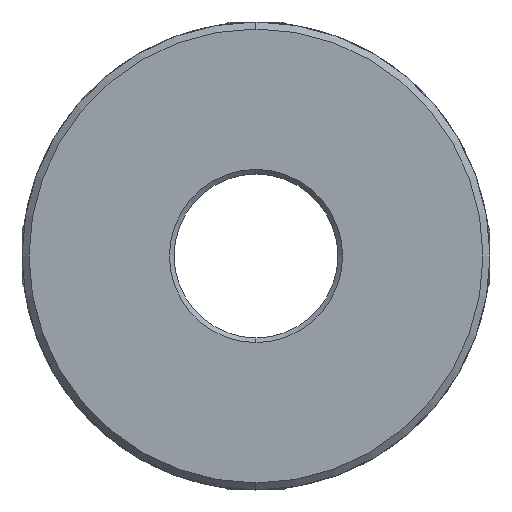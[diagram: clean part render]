
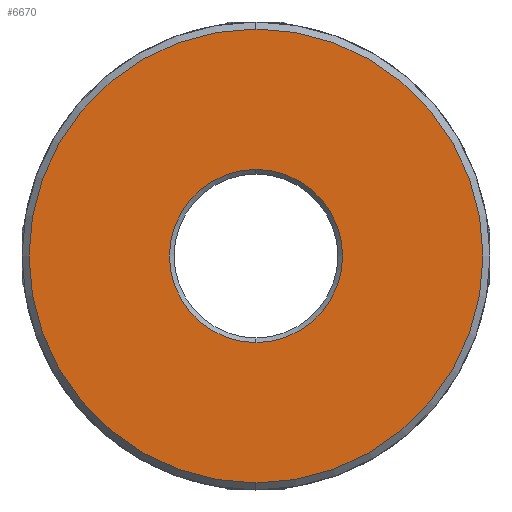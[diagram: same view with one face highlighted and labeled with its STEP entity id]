
A CAD part, front view. The second image highlights one B-rep face of the part: STEP entity #6670.
In plain terms, the highlighted planar face has unit normal (0, -1, 0).
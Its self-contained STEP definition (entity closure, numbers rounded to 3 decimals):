
#215 = DIRECTION ( 'NONE',  ( 0., 1., 0. ) ) ;
#544 = VERTEX_POINT ( 'NONE', #4293 ) ;
#609 = AXIS2_PLACEMENT_3D ( 'NONE', #6666, #645, #3096 ) ;
#645 = DIRECTION ( 'NONE',  ( 0., 1., 0. ) ) ;
#700 = CIRCLE ( 'NONE', #5014, 19.4 ) ;
#780 = DIRECTION ( 'NONE',  ( 0., 0., 1. ) ) ;
#1289 = CARTESIAN_POINT ( 'NONE',  ( 0., 0., 7.4 ) ) ;
#1602 = FACE_BOUND ( 'NONE', #2926, .T. ) ;
#1653 = EDGE_CURVE ( 'NONE', #544, #2484, #2302, .T. ) ;
#1655 = EDGE_CURVE ( 'NONE', #2484, #544, #700, .T. ) ;
#2157 = ORIENTED_EDGE ( 'NONE', *, *, #1653, .T. ) ;
#2302 = CIRCLE ( 'NONE', #7065, 19.4 ) ;
#2429 = ORIENTED_EDGE ( 'NONE', *, *, #5865, .T. ) ;
#2484 = VERTEX_POINT ( 'NONE', #5208 ) ;
#2614 = AXIS2_PLACEMENT_3D ( 'NONE', #6911, #215, #780 ) ;
#2926 = EDGE_LOOP ( 'NONE', ( #2429, #7626 ) ) ;
#3096 = DIRECTION ( 'NONE',  ( 0., 0., 1. ) ) ;
#3297 = FACE_OUTER_BOUND ( 'NONE', #6504, .T. ) ;
#3335 = DIRECTION ( 'NONE',  ( 0., 1., 0. ) ) ;
#3444 = CARTESIAN_POINT ( 'NONE',  ( 0., 0., 0. ) ) ;
#3848 = VERTEX_POINT ( 'NONE', #7650 ) ;
#3977 = CIRCLE ( 'NONE', #2614, 7.4 ) ;
#4081 = DIRECTION ( 'NONE',  ( 0., -1., 0. ) ) ;
#4178 = EDGE_CURVE ( 'NONE', #5502, #3848, #3977, .T. ) ;
#4291 = ORIENTED_EDGE ( 'NONE', *, *, #1655, .T. ) ;
#4293 = CARTESIAN_POINT ( 'NONE',  ( 0., 0., 19.4 ) ) ;
#4603 = CARTESIAN_POINT ( 'NONE',  ( 0., 0., 0. ) ) ;
#4696 = DIRECTION ( 'NONE',  ( 0., 0., 1. ) ) ;
#5014 = AXIS2_PLACEMENT_3D ( 'NONE', #3444, #4081, #6532 ) ;
#5208 = CARTESIAN_POINT ( 'NONE',  ( 0., 0., -19.4 ) ) ;
#5502 = VERTEX_POINT ( 'NONE', #1289 ) ;
#5787 = CARTESIAN_POINT ( 'NONE',  ( 24.74, 0., -50. ) ) ;
#5863 = PLANE ( 'NONE',  #7340 ) ;
#5865 = EDGE_CURVE ( 'NONE', #3848, #5502, #6334, .T. ) ;
#6334 = CIRCLE ( 'NONE', #609, 7.4 ) ;
#6504 = EDGE_LOOP ( 'NONE', ( #2157, #4291 ) ) ;
#6532 = DIRECTION ( 'NONE',  ( 0., 0., 1. ) ) ;
#6666 = CARTESIAN_POINT ( 'NONE',  ( 0., 0., 0. ) ) ;
#6670 = ADVANCED_FACE ( 'NONE', ( #1602, #3297 ), #5863, .F. ) ;
#6911 = CARTESIAN_POINT ( 'NONE',  ( 0., 0., 0. ) ) ;
#7065 = AXIS2_PLACEMENT_3D ( 'NONE', #4603, #7070, #4696 ) ;
#7070 = DIRECTION ( 'NONE',  ( 0., -1., 0. ) ) ;
#7340 = AXIS2_PLACEMENT_3D ( 'NONE', #5787, #3335, #7568 ) ;
#7568 = DIRECTION ( 'NONE',  ( 0., 0., 1. ) ) ;
#7626 = ORIENTED_EDGE ( 'NONE', *, *, #4178, .T. ) ;
#7650 = CARTESIAN_POINT ( 'NONE',  ( 0., 0., -7.4 ) ) ;
